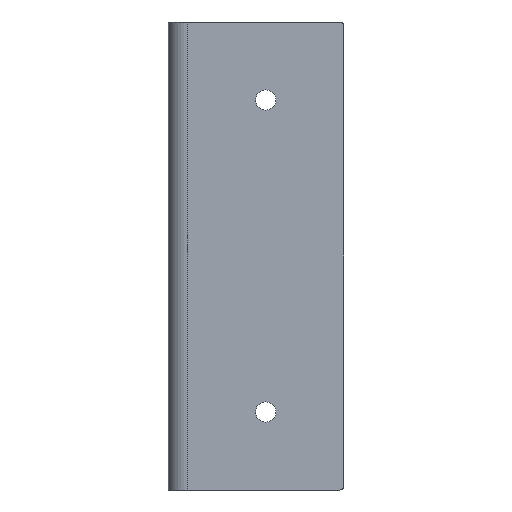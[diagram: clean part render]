
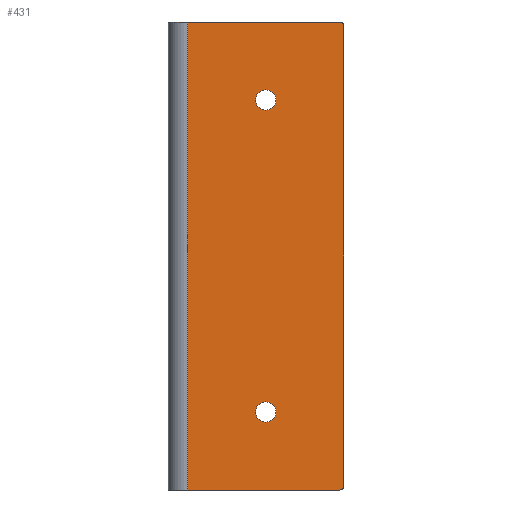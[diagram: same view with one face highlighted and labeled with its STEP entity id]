
A CAD part, front view. The second image highlights one B-rep face of the part: STEP entity #431.
In plain terms, the highlighted planar face has unit normal (0, -1, 0).
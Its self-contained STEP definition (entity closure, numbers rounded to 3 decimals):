
#230=CARTESIAN_POINT('',(171.988,-95.,2296.9));
#231=VERTEX_POINT('',#230);
#238=CARTESIAN_POINT('',(132.988,-95.,2296.9));
#239=VERTEX_POINT('',#238);
#240=CARTESIAN_POINT('',(171.988,-95.,2296.9));
#241=DIRECTION('',(-1.,0.,-0.));
#242=VECTOR('',#241,39.);
#243=LINE('',#240,#242);
#244=EDGE_CURVE('',#231,#239,#243,.T.);
#302=CARTESIAN_POINT('',(132.988,-95.,2416.9));
#303=VERTEX_POINT('',#302);
#311=CARTESIAN_POINT('',(171.988,-95.,2416.9));
#312=VERTEX_POINT('',#311);
#313=CARTESIAN_POINT('',(171.988,-95.,2416.9));
#314=DIRECTION('',(-1.,0.,-0.));
#315=VECTOR('',#314,39.);
#316=LINE('',#313,#315);
#317=EDGE_CURVE('',#312,#303,#316,.T.);
#352=CARTESIAN_POINT('',(131.988,-95.,2356.9));
#353=DIRECTION('',(-0.,-1.,-0.));
#354=DIRECTION('',(-1.,0.,-0.));
#355=AXIS2_PLACEMENT_3D('',#352,#353,#354);
#356=PLANE('',#355);
#357=CARTESIAN_POINT('',(150.388,-95.,2396.9));
#358=VERTEX_POINT('',#357);
#359=CARTESIAN_POINT('',(155.588,-95.,2396.9));
#360=VERTEX_POINT('',#359);
#361=CARTESIAN_POINT('',(152.988,-95.,2396.9));
#362=DIRECTION('',(-0.,-1.,-0.));
#363=DIRECTION('',(1.,-0.,0.));
#364=AXIS2_PLACEMENT_3D('',#361,#362,#363);
#365=CIRCLE('',#364,2.6);
#366=EDGE_CURVE('',#358,#360,#365,.T.);
#367=ORIENTED_EDGE('',*,*,#366,.F.);
#368=CARTESIAN_POINT('',(152.988,-95.,2396.9));
#369=DIRECTION('',(-0.,-1.,-0.));
#370=DIRECTION('',(1.,-0.,0.));
#371=AXIS2_PLACEMENT_3D('',#368,#369,#370);
#372=CIRCLE('',#371,2.6);
#373=EDGE_CURVE('',#360,#358,#372,.T.);
#374=ORIENTED_EDGE('',*,*,#373,.F.);
#375=EDGE_LOOP('',(#367,#374));
#376=FACE_BOUND('',#375,.T.);
#377=CARTESIAN_POINT('',(150.388,-95.,2316.9));
#378=VERTEX_POINT('',#377);
#379=CARTESIAN_POINT('',(155.588,-95.,2316.9));
#380=VERTEX_POINT('',#379);
#381=CARTESIAN_POINT('',(152.988,-95.,2316.9));
#382=DIRECTION('',(-0.,-1.,-0.));
#383=DIRECTION('',(1.,-0.,0.));
#384=AXIS2_PLACEMENT_3D('',#381,#382,#383);
#385=CIRCLE('',#384,2.6);
#386=EDGE_CURVE('',#378,#380,#385,.T.);
#387=ORIENTED_EDGE('',*,*,#386,.F.);
#388=CARTESIAN_POINT('',(152.988,-95.,2316.9));
#389=DIRECTION('',(-0.,-1.,-0.));
#390=DIRECTION('',(1.,-0.,0.));
#391=AXIS2_PLACEMENT_3D('',#388,#389,#390);
#392=CIRCLE('',#391,2.6);
#393=EDGE_CURVE('',#380,#378,#392,.T.);
#394=ORIENTED_EDGE('',*,*,#393,.F.);
#395=EDGE_LOOP('',(#387,#394));
#396=FACE_BOUND('',#395,.T.);
#397=ORIENTED_EDGE('',*,*,#244,.F.);
#398=CARTESIAN_POINT('',(172.988,-95.,2297.9));
#399=VERTEX_POINT('',#398);
#400=CARTESIAN_POINT('',(171.988,-95.,2297.9));
#401=DIRECTION('',(-0.,-1.,-0.));
#402=DIRECTION('',(1.,-0.,0.));
#403=AXIS2_PLACEMENT_3D('',#400,#401,#402);
#404=CIRCLE('',#403,1.);
#405=EDGE_CURVE('',#231,#399,#404,.T.);
#406=ORIENTED_EDGE('',*,*,#405,.T.);
#407=CARTESIAN_POINT('',(172.988,-95.,2415.9));
#408=VERTEX_POINT('',#407);
#409=CARTESIAN_POINT('',(172.988,-95.,2297.9));
#410=DIRECTION('',(-0.,-0.,1.));
#411=VECTOR('',#410,118.);
#412=LINE('',#409,#411);
#413=EDGE_CURVE('',#399,#408,#412,.T.);
#414=ORIENTED_EDGE('',*,*,#413,.T.);
#415=CARTESIAN_POINT('',(171.988,-95.,2415.9));
#416=DIRECTION('',(-0.,-1.,-0.));
#417=DIRECTION('',(1.,-0.,0.));
#418=AXIS2_PLACEMENT_3D('',#415,#416,#417);
#419=CIRCLE('',#418,1.);
#420=EDGE_CURVE('',#408,#312,#419,.T.);
#421=ORIENTED_EDGE('',*,*,#420,.T.);
#422=ORIENTED_EDGE('',*,*,#317,.T.);
#423=CARTESIAN_POINT('',(132.988,-95.,2416.9));
#424=DIRECTION('',(0.,0.,-1.));
#425=VECTOR('',#424,120.);
#426=LINE('',#423,#425);
#427=EDGE_CURVE('',#303,#239,#426,.T.);
#428=ORIENTED_EDGE('',*,*,#427,.T.);
#429=EDGE_LOOP('',(#397,#406,#414,#421,#422,#428));
#430=FACE_BOUND('',#429,.T.);
#431=ADVANCED_FACE('',(#376,#396,#430),#356,.T.);
